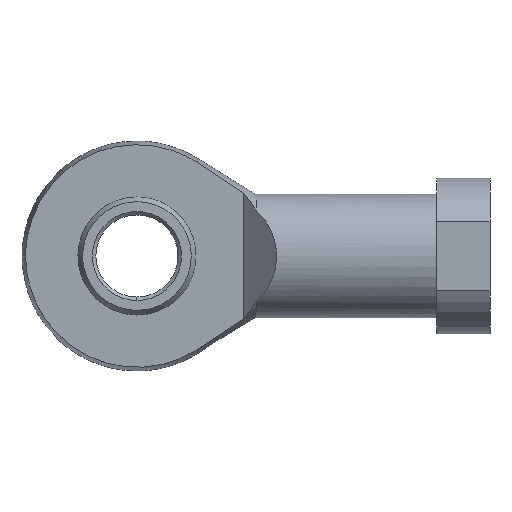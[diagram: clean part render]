
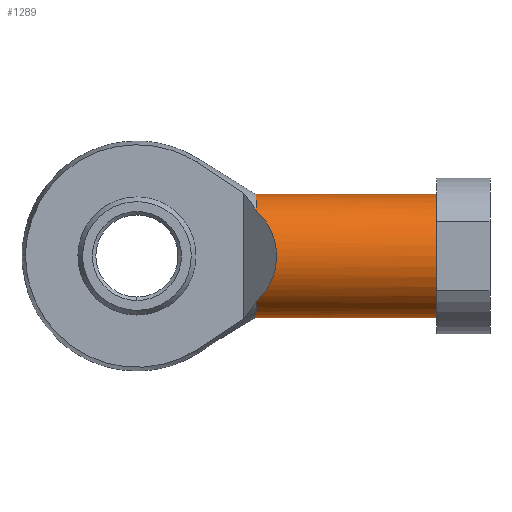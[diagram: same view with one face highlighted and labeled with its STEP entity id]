
A CAD part, front view. The second image highlights one B-rep face of the part: STEP entity #1289.
In plain terms, the highlighted cylindrical face has radius 7.5 mm (diameter 15 mm), a partial arc.
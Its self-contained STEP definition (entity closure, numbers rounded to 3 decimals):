
#3 = DIRECTION ( 'NONE',  ( 1., 0., 0. ) ) ;
#6 = CYLINDRICAL_SURFACE ( 'NONE', #492, 7.5 ) ;
#38 = AXIS2_PLACEMENT_3D ( 'NONE', #355, #3, #242 ) ;
#72 = EDGE_CURVE ( 'NONE', #1514, #1027, #1382, .T. ) ;
#87 = DIRECTION ( 'NONE',  ( 1., 0., 0. ) ) ;
#119 = ORIENTED_EDGE ( 'NONE', *, *, #1238, .T. ) ;
#127 = AXIS2_PLACEMENT_3D ( 'NONE', #590, #811, #1176 ) ;
#200 = ORIENTED_EDGE ( 'NONE', *, *, #944, .T. ) ;
#215 = CARTESIAN_POINT ( 'NONE',  ( 18.071, -8.571, -2.396 ) ) ;
#239 = VERTEX_POINT ( 'NONE', #1143 ) ;
#242 = DIRECTION ( 'NONE',  ( 0., 0., 1. ) ) ;
#268 = EDGE_CURVE ( 'NONE', #1104, #1514, #1508, .T. ) ;
#305 = VERTEX_POINT ( 'NONE', #1510 ) ;
#310 = CARTESIAN_POINT ( 'NONE',  ( 14.5, -5., 5.59 ) ) ;
#315 = FACE_OUTER_BOUND ( 'NONE', #769, .T. ) ;
#327 = DIRECTION ( 'NONE',  ( 0., 0., 1. ) ) ;
#338 = LINE ( 'NONE', #388, #704 ) ;
#355 = CARTESIAN_POINT ( 'NONE',  ( 14.5, 0., 0. ) ) ;
#358 = CIRCLE ( 'NONE', #127, 7.5 ) ;
#388 = CARTESIAN_POINT ( 'NONE',  ( 25.5, 0., -7.5 ) ) ;
#395 = ORIENTED_EDGE ( 'NONE', *, *, #1019, .T. ) ;
#399 = DIRECTION ( 'NONE',  ( -1., 0., 0. ) ) ;
#404 = CARTESIAN_POINT ( 'NONE',  ( 14.5, -5., -5.59 ) ) ;
#425 = CARTESIAN_POINT ( 'NONE',  ( 14.5, 0., 0. ) ) ;
#489 = VECTOR ( 'NONE', #399, 1000. ) ;
#492 = AXIS2_PLACEMENT_3D ( 'NONE', #708, #1061, #327 ) ;
#507 = CIRCLE ( 'NONE', #1486, 7.5 ) ;
#519 = DIRECTION ( 'NONE',  ( -1., 0., 0. ) ) ;
#551 = VERTEX_POINT ( 'NONE', #1440 ) ;
#590 = CARTESIAN_POINT ( 'NONE',  ( 36.5, 0., 0. ) ) ;
#704 = VECTOR ( 'NONE', #519, 1000. ) ;
#708 = CARTESIAN_POINT ( 'NONE',  ( 25.5, 0., 0. ) ) ;
#769 = EDGE_LOOP ( 'NONE', ( #1136, #200, #395, #972, #1395, #119 ) ) ;
#783 = EDGE_CURVE ( 'NONE', #305, #551, #338, .T. ) ;
#811 = DIRECTION ( 'NONE',  ( -1., 0., 0. ) ) ;
#855 = CARTESIAN_POINT ( 'NONE',  ( 25.5, 0., 7.5 ) ) ;
#926 = CARTESIAN_POINT ( 'NONE',  ( 18.071, -8.571, 2.396 ) ) ;
#944 = EDGE_CURVE ( 'NONE', #305, #239, #358, .T. ) ;
#972 = ORIENTED_EDGE ( 'NONE', *, *, #268, .T. ) ;
#1019 = EDGE_CURVE ( 'NONE', #239, #1104, #1268, .T. ) ;
#1027 = VERTEX_POINT ( 'NONE', #404 ) ;
#1038 = CARTESIAN_POINT ( 'NONE',  ( 14.5, -5., -5.59 ) ) ;
#1061 = DIRECTION ( 'NONE',  ( -1., 0., 0. ) ) ;
#1104 = VERTEX_POINT ( 'NONE', #1237 ) ;
#1136 = ORIENTED_EDGE ( 'NONE', *, *, #783, .F. ) ;
#1143 = CARTESIAN_POINT ( 'NONE',  ( 36.5, 0., 7.5 ) ) ;
#1176 = DIRECTION ( 'NONE',  ( 0., 0., 1. ) ) ;
#1237 = CARTESIAN_POINT ( 'NONE',  ( 14.5, 0., 7.5 ) ) ;
#1238 = EDGE_CURVE ( 'NONE', #1027, #551, #507, .T. ) ;
#1268 = LINE ( 'NONE', #855, #489 ) ;
#1289 = ADVANCED_FACE ( 'NONE', ( #315 ), #6, .T. ) ;
#1382 =( BOUNDED_CURVE ( )  B_SPLINE_CURVE ( 3, ( #1411, #926, #215, #1038 ),
 .UNSPECIFIED., .F., .F. ) 
 B_SPLINE_CURVE_WITH_KNOTS ( ( 4, 4 ),
 ( 2.301, 3.983 ),
 .UNSPECIFIED. ) 
 CURVE ( )  GEOMETRIC_REPRESENTATION_ITEM ( )  RATIONAL_B_SPLINE_CURVE ( ( 1., 0.778, 0.778, 1. ) ) 
 REPRESENTATION_ITEM ( '' )  );
#1395 = ORIENTED_EDGE ( 'NONE', *, *, #72, .T. ) ;
#1411 = CARTESIAN_POINT ( 'NONE',  ( 14.5, -5., 5.59 ) ) ;
#1440 = CARTESIAN_POINT ( 'NONE',  ( 14.5, 0., -7.5 ) ) ;
#1486 = AXIS2_PLACEMENT_3D ( 'NONE', #425, #87, #1509 ) ;
#1508 = CIRCLE ( 'NONE', #38, 7.5 ) ;
#1509 = DIRECTION ( 'NONE',  ( 0., 0., 1. ) ) ;
#1510 = CARTESIAN_POINT ( 'NONE',  ( 36.5, 0., -7.5 ) ) ;
#1514 = VERTEX_POINT ( 'NONE', #310 ) ;
